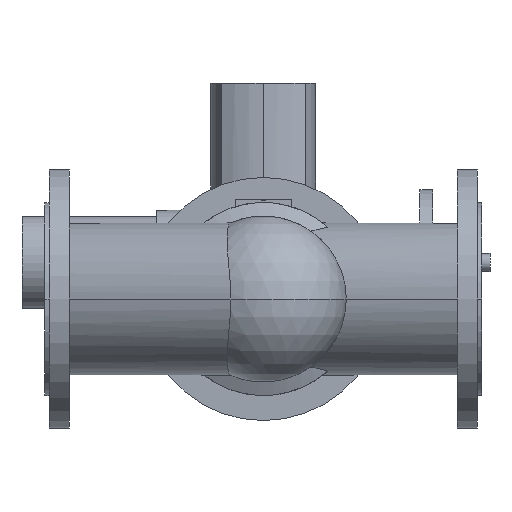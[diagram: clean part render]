
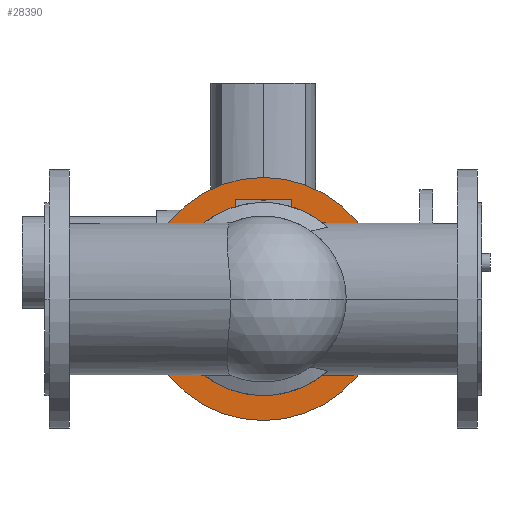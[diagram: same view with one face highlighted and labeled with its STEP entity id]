
A CAD part, front view. The second image highlights one B-rep face of the part: STEP entity #28390.
In plain terms, the highlighted planar face has unit normal (0, -1, 0).
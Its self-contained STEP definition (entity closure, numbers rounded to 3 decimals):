
#1320=CARTESIAN_POINT('',(373.5,143.2,0.));
#1330=VERTEX_POINT('',#1320);
#1510=CARTESIAN_POINT('',(106.5,143.2,0.));
#1520=VERTEX_POINT('',#1510);
#1550=CARTESIAN_POINT('',(240.,143.2,0.));
#1560=DIRECTION('',(0.,-1.,0.));
#1570=DIRECTION('',(-1.,0.,0.));
#1580=AXIS2_PLACEMENT_3D('',#1550,#1560,#1570);
#1590=CIRCLE('',#1580,133.5);
#1600=EDGE_CURVE('',#1520,#1330,#1590,.T.);
#1760=CARTESIAN_POINT('',(134.,143.2,0.));
#1770=VERTEX_POINT('',#1760);
#3310=CARTESIAN_POINT('',(346.,143.2,0.));
#3320=VERTEX_POINT('',#3310);
#3350=CARTESIAN_POINT('',(240.,143.2,0.));
#3360=DIRECTION('',(0.,-1.,0.));
#3370=DIRECTION('',(-1.,0.,0.));
#3380=AXIS2_PLACEMENT_3D('',#3350,#3360,#3370);
#3390=CIRCLE('',#3380,106.);
#3400=EDGE_CURVE('',#1770,#3320,#3390,.T.);
#28240=CARTESIAN_POINT('',(120.25,143.2,0.));
#28250=DIRECTION('',(0.,-1.,0.));
#28260=DIRECTION('',(-1.,0.,0.));
#28270=AXIS2_PLACEMENT_3D('',#28240,#28250,#28260);
#28280=PLANE('',#28270);
#28290=EDGE_CURVE('',#3320,#1770,#3390,.T.);
#28300=ORIENTED_EDGE('',*,*,#28290,.F.);
#28310=ORIENTED_EDGE('',*,*,#3400,.F.);
#28320=EDGE_LOOP('',(#28310,#28300));
#28330=FACE_BOUND('',#28320,.T.);
#28340=EDGE_CURVE('',#1330,#1520,#1590,.T.);
#28350=ORIENTED_EDGE('',*,*,#28340,.T.);
#28360=ORIENTED_EDGE('',*,*,#1600,.T.);
#28370=EDGE_LOOP('',(#28360,#28350));
#28380=FACE_OUTER_BOUND('',#28370,.T.);
#28390=ADVANCED_FACE('',(#28330,#28380),#28280,.T.);
